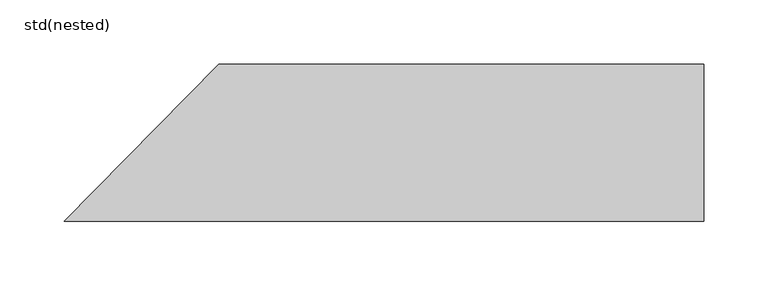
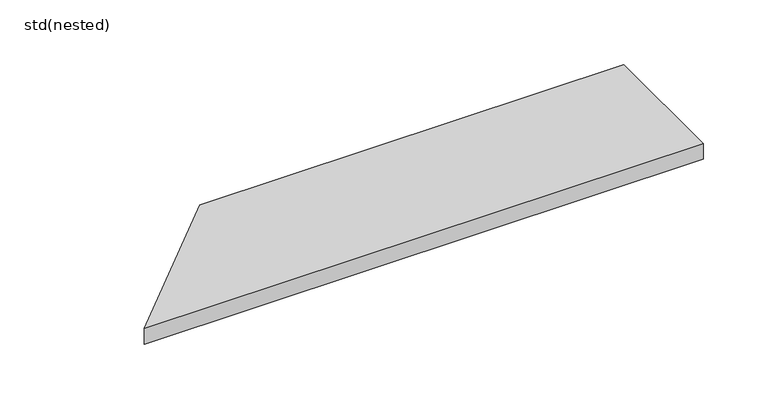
"""IFC4 building model written with IfcOpenShell, lengths in millimetres: sanitary terminal geometry, ZZZ_do not use_PF_ST_SlabDrain_H100K_gratings_USA_ACO : std(nested)."""

from ifc_helpers import new_model, si_unit, frame, origin, place, context, project, spatial, polyline, outline, extrude, source, transform, mapped, element, save


def std_nested_3f48ddce(model_context):
    return source(origin(), model_context, "Body", "SweptSolid", [
        extrude(outline(polyline([(249.936, 61.5), (249.936, -61.5), (-249.936, -61.5), (-129.0642366, 61.5), (249.936, 61.5)])), frame((0.0, 0.0, -98.0), z_axis=(0.0, 0.0, 1.0), x_axis=(1.0, 0.0, 0.0)), (0.0, 0.0, 1.0), 15.0),
    ])


if __name__ == "__main__":
    model = new_model("IFC4")
    model_context = context("Model", 3, world=origin())
    ifc_project = project(units=[si_unit("LENGTHUNIT", "METRE", prefix="MILLI")], contexts=[model_context])
    site = spatial("IfcSite", under=ifc_project)
    building = spatial("IfcBuilding", under=site)
    placement = place(None, origin())
    std_nested_shape = std_nested_3f48ddce(model_context)
    element("IfcSanitaryTerminal", 1, ObjectType="ZZZ_do not use_PF_ST_SlabDrain_H100K_gratings_USA_ACO : std(nested)", at=placement, inside=building, context=model_context, shape_type="MappedRepresentation", body=[
        mapped(std_nested_shape, transform((0.0, 0.0, 0.0), x_axis=(1.0, 0.0, 0.0), y_axis=(0.0, 1.0, 0.0), z_axis=(0.0, 0.0, 1.0))),
    ])
    save(model, "model.ifc")
